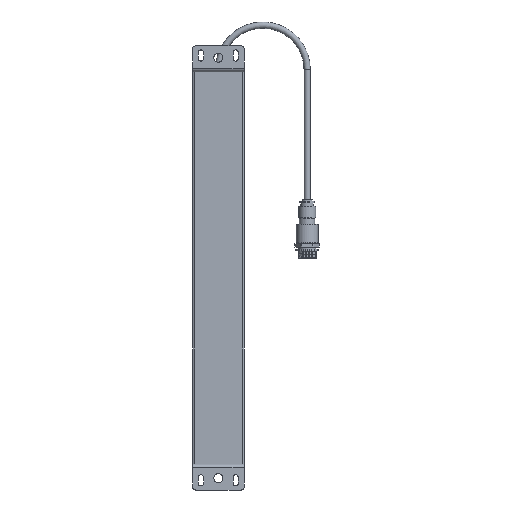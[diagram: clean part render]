
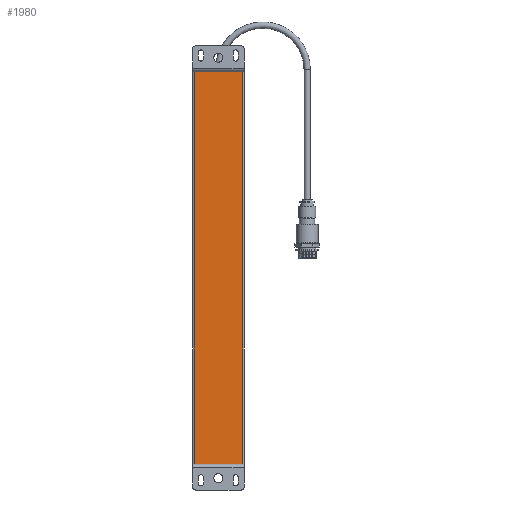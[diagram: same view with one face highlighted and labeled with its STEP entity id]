
A CAD part, front view. The second image highlights one B-rep face of the part: STEP entity #1980.
In plain terms, the highlighted planar face has unit normal (0, -1, 0).
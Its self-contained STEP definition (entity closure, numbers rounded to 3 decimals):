
#473=DIRECTION('',(1.,0.,0.));
#474=VECTOR('',#473,32.8);
#475=CARTESIAN_POINT('',(-16.4,-9.3,-132.5));
#476=LINE('',#475,#474);
#538=DIRECTION('',(0.,0.,-1.));
#539=VECTOR('',#538,265.);
#540=CARTESIAN_POINT('',(16.4,-9.3,132.5));
#541=LINE('',#540,#539);
#545=DIRECTION('',(0.,0.,-1.));
#546=VECTOR('',#545,265.);
#547=CARTESIAN_POINT('',(-16.4,-9.3,132.5));
#548=LINE('',#547,#546);
#1024=DIRECTION('',(1.,0.,0.));
#1025=VECTOR('',#1024,32.8);
#1026=CARTESIAN_POINT('',(-16.4,-9.3,132.5));
#1027=LINE('',#1026,#1025);
#1689=CARTESIAN_POINT('',(16.4,-9.3,-132.5));
#1691=VERTEX_POINT('',#1689);
#1692=CARTESIAN_POINT('',(16.4,-9.3,132.5));
#1693=VERTEX_POINT('',#1692);
#1696=CARTESIAN_POINT('',(-16.4,-9.3,-132.5));
#1698=VERTEX_POINT('',#1696);
#1702=CARTESIAN_POINT('',(-16.4,-9.3,132.5));
#1703=VERTEX_POINT('',#1702);
#1967=CARTESIAN_POINT('',(-17.4,-9.3,-132.5));
#1968=DIRECTION('',(0.,-1.,0.));
#1969=DIRECTION('',(1.,0.,0.));
#1970=AXIS2_PLACEMENT_3D('',#1967,#1968,#1969);
#1971=PLANE('',#1970);
#1972=ORIENTED_EDGE('',*,*,#1959,.T.);
#1973=ORIENTED_EDGE('',*,*,#1883,.F.);
#1975=ORIENTED_EDGE('',*,*,#1974,.F.);
#1977=ORIENTED_EDGE('',*,*,#1976,.T.);
#1978=EDGE_LOOP('',(#1972,#1973,#1975,#1977));
#1979=FACE_OUTER_BOUND('',#1978,.F.);
#1883=EDGE_CURVE('',#1698,#1691,#476,.T.);
#1959=EDGE_CURVE('',#1693,#1691,#541,.T.);
#1974=EDGE_CURVE('',#1703,#1698,#548,.T.);
#1976=EDGE_CURVE('',#1703,#1693,#1027,.T.);
#1980=ADVANCED_FACE('',(#1979),#1971,.T.);
